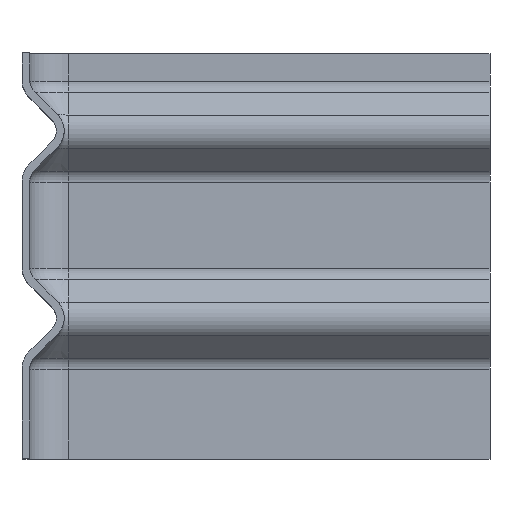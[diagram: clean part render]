
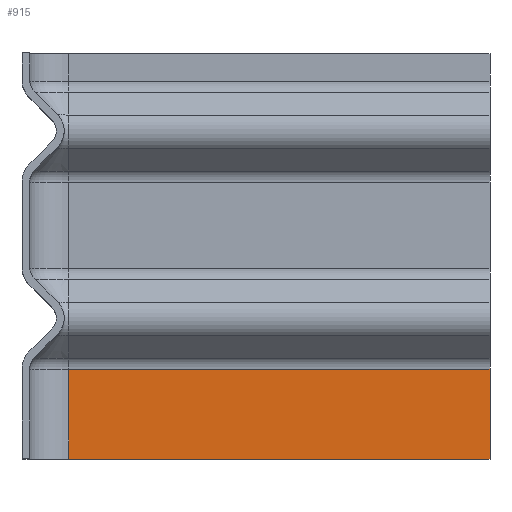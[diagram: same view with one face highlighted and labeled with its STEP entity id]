
A CAD part, top view. The second image highlights one B-rep face of the part: STEP entity #915.
In plain terms, the highlighted planar face has unit normal (0, 0, 1).
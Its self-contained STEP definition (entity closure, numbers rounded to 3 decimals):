
#73=CARTESIAN_POINT('',(150.0,28.822,-147.5));
#74=VERTEX_POINT('',#73);
#92=CARTESIAN_POINT('',(15.,28.822,-147.5));
#93=VERTEX_POINT('',#92);
#101=CARTESIAN_POINT('',(15.,28.822,-147.5));
#102=DIRECTION('',(1.0,0.0,0.0));
#103=VECTOR('',#102,135.);
#104=LINE('',#101,#103);
#105=EDGE_CURVE('',#93,#74,#104,.T.);
#885=CARTESIAN_POINT('',(15.,0.0,-147.5));
#886=DIRECTION('',(0.0,0.0,1.0));
#887=DIRECTION('',(1.0,0.0,0.0));
#888=AXIS2_PLACEMENT_3D('',#885,#886,#887);
#889=PLANE('',#888);
#890=CARTESIAN_POINT('',(150.0,0.0,-147.5));
#891=VERTEX_POINT('',#890);
#892=CARTESIAN_POINT('',(150.0,0.0,-147.5));
#893=DIRECTION('',(0.0,1.0,0.0));
#894=VECTOR('',#893,28.822);
#895=LINE('',#892,#894);
#896=EDGE_CURVE('',#891,#74,#895,.T.);
#897=ORIENTED_EDGE('',*,*,#896,.T.);
#898=ORIENTED_EDGE('',*,*,#105,.F.);
#899=CARTESIAN_POINT('',(15.,0.0,-147.5));
#900=VERTEX_POINT('',#899);
#901=CARTESIAN_POINT('',(15.,0.0,-147.5));
#902=DIRECTION('',(0.0,1.0,0.0));
#903=VECTOR('',#902,28.822);
#904=LINE('',#901,#903);
#905=EDGE_CURVE('',#900,#93,#904,.T.);
#906=ORIENTED_EDGE('',*,*,#905,.F.);
#907=CARTESIAN_POINT('',(15.,0.0,-147.5));
#908=DIRECTION('',(1.0,0.0,0.0));
#909=VECTOR('',#908,135.);
#910=LINE('',#907,#909);
#911=EDGE_CURVE('',#900,#891,#910,.T.);
#912=ORIENTED_EDGE('',*,*,#911,.T.);
#913=EDGE_LOOP('',(#897,#898,#906,#912));
#914=FACE_OUTER_BOUND('',#913,.T.);
#915=ADVANCED_FACE('',(#914),#889,.T.);
